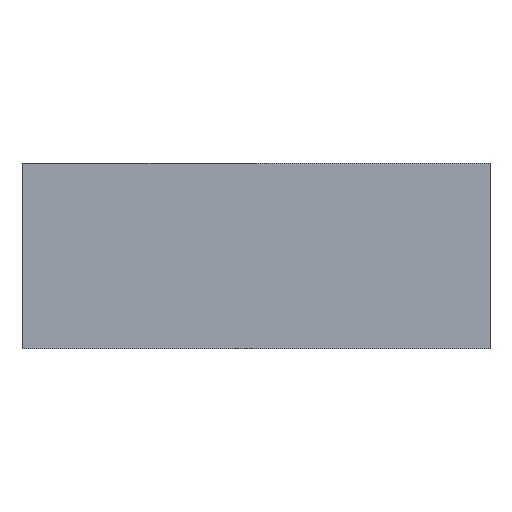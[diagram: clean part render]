
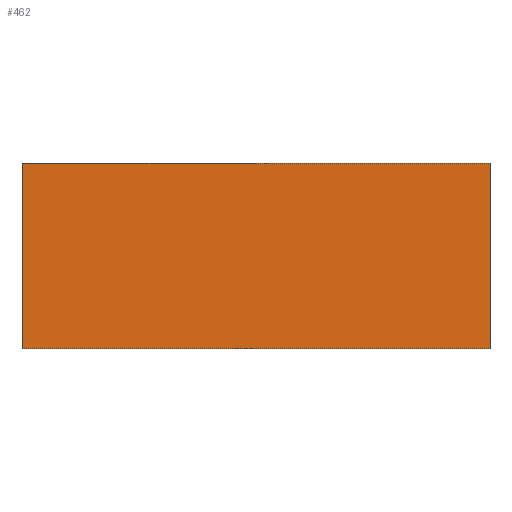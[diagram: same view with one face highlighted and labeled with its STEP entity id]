
A CAD part, front view. The second image highlights one B-rep face of the part: STEP entity #462.
In plain terms, the highlighted planar face has unit normal (0, -1, 0).
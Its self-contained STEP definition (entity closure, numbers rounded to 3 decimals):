
#11 = CARTESIAN_POINT ( 'NONE',  ( 151., 0., 120. ) ) ;
#22 = LINE ( 'NONE', #553, #136 ) ;
#40 = LINE ( 'NONE', #516, #132 ) ;
#86 = ORIENTED_EDGE ( 'NONE', *, *, #353, .T. ) ;
#87 = ORIENTED_EDGE ( 'NONE', *, *, #474, .F. ) ;
#109 = ORIENTED_EDGE ( 'NONE', *, *, #372, .F. ) ;
#110 = ORIENTED_EDGE ( 'NONE', *, *, #497, .T. ) ;
#132 = VECTOR ( 'NONE', #517, 1000. ) ;
#136 = VECTOR ( 'NONE', #557, 1000. ) ;
#154 = FACE_OUTER_BOUND ( 'NONE', #166, .T. ) ;
#166 = EDGE_LOOP ( 'NONE', ( #86, #87, #109, #110 ) ) ;
#228 = LINE ( 'NONE', #11, #229 ) ;
#229 = VECTOR ( 'NONE', #402, 1000. ) ;
#257 = LINE ( 'NONE', #444, #258 ) ;
#258 = VECTOR ( 'NONE', #445, 1000. ) ;
#329 = VERTEX_POINT ( 'NONE', #502 ) ;
#338 = VERTEX_POINT ( 'NONE', #510 ) ;
#349 = VERTEX_POINT ( 'NONE', #512 ) ;
#350 = VERTEX_POINT ( 'NONE', #513 ) ;
#353 = EDGE_CURVE ( 'NONE', #350, #329, #40, .T. ) ;
#372 = EDGE_CURVE ( 'NONE', #338, #349, #22, .T. ) ;
#391 = AXIS2_PLACEMENT_3D ( 'NONE', #562, #567, #568 ) ;
#402 = DIRECTION ( 'NONE',  ( 0., 0., -1. ) ) ;
#444 = CARTESIAN_POINT ( 'NONE',  ( -151., 0., 120. ) ) ;
#445 = DIRECTION ( 'NONE',  ( 0., 0., -1. ) ) ;
#462 = ADVANCED_FACE ( 'NONE', ( #154 ), #565, .F. ) ;
#474 = EDGE_CURVE ( 'NONE', #349, #329, #228, .T. ) ;
#497 = EDGE_CURVE ( 'NONE', #338, #350, #257, .T. ) ;
#502 = CARTESIAN_POINT ( 'NONE',  ( 151., 0., 0. ) ) ;
#510 = CARTESIAN_POINT ( 'NONE',  ( -151., 0., 120. ) ) ;
#512 = CARTESIAN_POINT ( 'NONE',  ( 151., 0., 120. ) ) ;
#513 = CARTESIAN_POINT ( 'NONE',  ( -151., 0., 0. ) ) ;
#516 = CARTESIAN_POINT ( 'NONE',  ( -151., 0., 0. ) ) ;
#517 = DIRECTION ( 'NONE',  ( 1., 0., 0. ) ) ;
#553 = CARTESIAN_POINT ( 'NONE',  ( -151., 0., 120. ) ) ;
#557 = DIRECTION ( 'NONE',  ( 1., 0., 0. ) ) ;
#562 = CARTESIAN_POINT ( 'NONE',  ( -151., 0., 120. ) ) ;
#565 = PLANE ( 'NONE',  #391 ) ;
#567 = DIRECTION ( 'NONE',  ( 0., 1., 0. ) ) ;
#568 = DIRECTION ( 'NONE',  ( -1., 0., 0. ) ) ;
